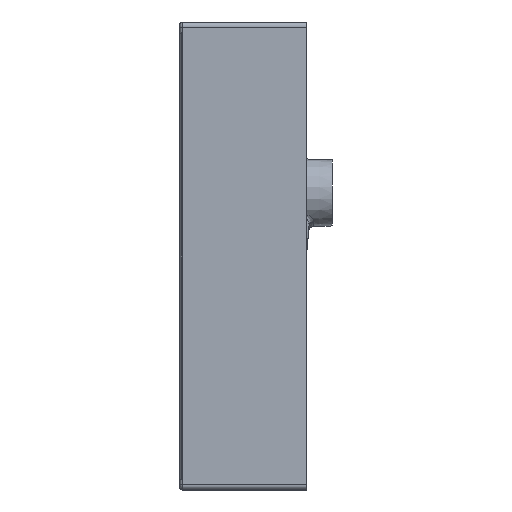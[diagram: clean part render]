
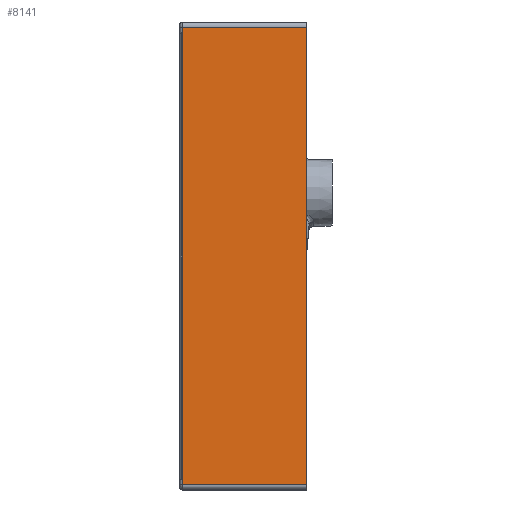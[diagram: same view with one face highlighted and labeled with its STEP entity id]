
A CAD part, left-side view. The second image highlights one B-rep face of the part: STEP entity #8141.
In plain terms, the highlighted planar face has unit normal (-1, 0, 0).
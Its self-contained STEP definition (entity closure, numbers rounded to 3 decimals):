
#965 = CARTESIAN_POINT ( 'NONE',  ( -402.5, -125., 163. ) ) ;
#1930 = ORIENTED_EDGE ( 'NONE', *, *, #14174, .T. ) ;
#4358 = VECTOR ( 'NONE', #9521, 1000. ) ;
#5261 = DIRECTION ( 'NONE',  ( 0., 0., -1. ) ) ;
#5554 = VECTOR ( 'NONE', #11363, 1000. ) ;
#6065 = EDGE_CURVE ( 'NONE', #17034, #10527, #16775, .T. ) ;
#7081 = CARTESIAN_POINT ( 'NONE',  ( -402.5, -3., 163. ) ) ;
#7772 = DIRECTION ( 'NONE',  ( 0., 0., 1. ) ) ;
#8141 = ADVANCED_FACE ( 'NONE', ( #20616 ), #19324, .T. ) ;
#8293 = EDGE_LOOP ( 'NONE', ( #1930, #13212, #19365, #17957 ) ) ;
#8702 = EDGE_CURVE ( 'NONE', #10527, #15349, #19570, .T. ) ;
#8727 = VECTOR ( 'NONE', #13862, 1000. ) ;
#9521 = DIRECTION ( 'NONE',  ( 0., -1., 0. ) ) ;
#9668 = LINE ( 'NONE', #11784, #18441 ) ;
#10527 = VERTEX_POINT ( 'NONE', #21095 ) ;
#11255 = CARTESIAN_POINT ( 'NONE',  ( -402.5, -135., -287. ) ) ;
#11363 = DIRECTION ( 'NONE',  ( 0., 1., 0. ) ) ;
#11645 = CARTESIAN_POINT ( 'NONE',  ( -402.5, -3., -287. ) ) ;
#11784 = CARTESIAN_POINT ( 'NONE',  ( -402.5, -3., -287. ) ) ;
#11848 = AXIS2_PLACEMENT_3D ( 'NONE', #16012, #17463, #7772 ) ;
#13212 = ORIENTED_EDGE ( 'NONE', *, *, #16803, .T. ) ;
#13862 = DIRECTION ( 'NONE',  ( 0., 0., 1. ) ) ;
#14174 = EDGE_CURVE ( 'NONE', #15349, #18804, #18483, .T. ) ;
#15349 = VERTEX_POINT ( 'NONE', #965 ) ;
#16012 = CARTESIAN_POINT ( 'NONE',  ( -402.5, -135., -292. ) ) ;
#16398 = CARTESIAN_POINT ( 'NONE',  ( -402.5, -135., 163. ) ) ;
#16775 = LINE ( 'NONE', #11255, #4358 ) ;
#16803 = EDGE_CURVE ( 'NONE', #18804, #17034, #9668, .T. ) ;
#17034 = VERTEX_POINT ( 'NONE', #11645 ) ;
#17110 = CARTESIAN_POINT ( 'NONE',  ( -402.5, -125., -292. ) ) ;
#17463 = DIRECTION ( 'NONE',  ( -1., 0., 0. ) ) ;
#17957 = ORIENTED_EDGE ( 'NONE', *, *, #8702, .T. ) ;
#18441 = VECTOR ( 'NONE', #5261, 1000. ) ;
#18483 = LINE ( 'NONE', #16398, #5554 ) ;
#18804 = VERTEX_POINT ( 'NONE', #7081 ) ;
#19324 = PLANE ( 'NONE',  #11848 ) ;
#19365 = ORIENTED_EDGE ( 'NONE', *, *, #6065, .T. ) ;
#19570 = LINE ( 'NONE', #17110, #8727 ) ;
#20616 = FACE_OUTER_BOUND ( 'NONE', #8293, .T. ) ;
#21095 = CARTESIAN_POINT ( 'NONE',  ( -402.5, -125., -287. ) ) ;
